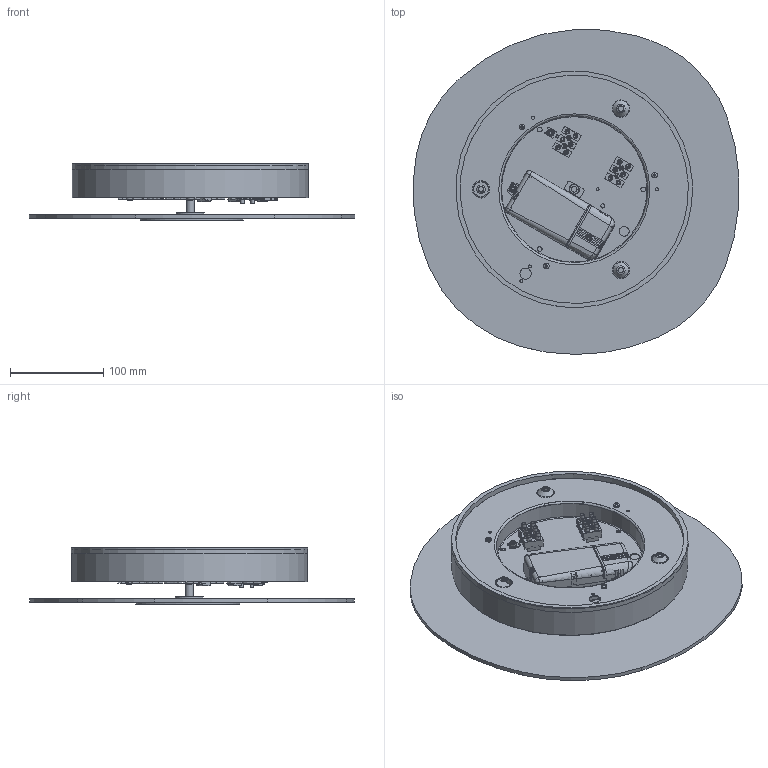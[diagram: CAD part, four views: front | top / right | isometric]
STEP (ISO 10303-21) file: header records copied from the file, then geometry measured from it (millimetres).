
FILE_DESCRIPTION(/* description */ ('1010391 - BETA SMALL P-PL CON SCHEDA Ø160'),/* implementation_level */ '2;1');
FILE_NAME(/* name */ 'R:\Tecnico\_NEW TECNICO CLANN\PROGETTI DI SERIE LEUCOS FINO 2019\BETA\drawings\INVENTOR BETA\3D\BETA SMALL LED II VERSIONE - Connettori Phoenix.stp',/* time_stamp */ '2021-09-09T15:59:38+02:00',/* author */ ('andrea.bortot'),/* organization */ (''),/* preprocessor_version */ 'ST-DEVELOPER v18.1',/* originating_system */ 'Autodesk Inventor 2020',/* authorisation */ '');
FILE_SCHEMA (('AUTOMOTIVE_DESIGN { 1 0 10303 214 3 1 1 }'));
Products named in the file (32): BETA SMALL LED II VERSIONE - Connettori Phoenix; GUARNIZIONE PVC 70 SHORE TRASP.SEZ.U GMP ENGIN - SVIL.784; 00063C014; 00063C010; 00063C003; 00063C004; 00063C015; PANNO NERO Ø88 C-APERTURA SFERA T20; 00063C012; ALIM.EL. DIM LED TCI 125400; MORSETTO 3P O-KORNER OK 433-FV-H S-SERIGRAFIA; 00063C006; BLOCCACAVO STEAB 5922-18 NERO; VITE TCBIC M4X16; FORCELLA DI MESSA A TERRA; SCHEDA LED EA CL168.00; DIST. ESA M3 L25 DD10 E 3050 25 ELEKTROZUBEHO; RONDELLA DENTELLATA ESTERNA M3 UNI8842A; VITE TC M3X6 ZN DIN 7985; VITE TCC M2.5X16 ZINC UNI7687 DIN7985; DADO ESAG. M2,5 UNI5588 DIN934; DADO M6 ZINCATO H4; 00063C018; RONDELLA DENTELLATA ESTERNA M6 ZINCATA; CONNETTORE F 2P PHOENIX 1709457; CONNETTORE M 2P PHOENIX 1709450; RONDELLA DENTELLATA ESTERNA M4; VITE TCBIC M4X8 UNI7687 DIN7985; DADO M4 S3 M.00.14.19 CH7 ELETTROLAMP; CAVO 1AWG18 PVC T105 600V MAT.B UR-CSA RIGIDO; CAVO 1X0,5MM MARRONE LAPP 4180403 CSA-UR 105° 300
V; CAVO 1X0,5MM BIANCO LAPP 4180405 CSA-UR 105° 300V
Assembly tree (65 placements, depth 2):
  BETA SMALL LED II VERSIONE - Connettori Phoenix
    GUARNIZIONE PVC 70 SHORE TRASP.SEZ.U GMP ENGIN - SVIL.784
    00063C014
    00063C010
    00063C003
    00063C004
    00063C015
    PANNO NERO Ø88 C-APERTURA SFERA T20
    00063C012
    ALIM.EL. DIM LED TCI 125400
    MORSETTO 3P O-KORNER OK 433-FV-H S-SERIGRAFIA  x2
    00063C006
    BLOCCACAVO STEAB 5922-18 NERO  x2
    DADO M4 S3 M.00.14.19 CH7 ELETTROLAMP  x5
    VITE TCBIC M4X16  x2
    FORCELLA DI MESSA A TERRA
    RONDELLA DENTELLATA ESTERNA M4  x4
    SCHEDA LED EA CL168.00
    DIST. ESA M3 L25 DD10 E 3050 25 ELEKTROZUBEHO  x3
    VITE TC M3X6 ZN DIN 7985  x6
    RONDELLA DENTELLATA ESTERNA M3 UNI8842A  x6
    VITE TCBIC M4X8 UNI7687 DIN7985  x7
    VITE TCC M2.5X16 ZINC UNI7687 DIN7985  x4
    DADO ESAG. M2,5 UNI5588 DIN934  x4
    DADO M6 ZINCATO H4
    00063C018
    RONDELLA DENTELLATA ESTERNA M6 ZINCATA
    CONNETTORE F 2P PHOENIX 1709457
    CONNETTORE M 2P PHOENIX 1709450
    CAVO 1AWG18 PVC T105 600V MAT.B UR-CSA RIGIDO
    CAVO 1X0,5MM MARRONE LAPP 4180403 CSA-UR 105° 300
V
    CAVO 1X0,5MM BIANCO LAPP 4180405 CSA-UR 105° 300V
Bounding box: 349.53 x 348.55 x 60.5 mm (x, y, z)
Volume: 638208.7 mm3; surface area: 607803.1 mm2
Topology: 72 solids, 72 shells, 6264 faces, 16710 edges, 10776 vertices
Faces by surface type: plane 3104, cylinder 1666, bspline 791, cone 426, torus 166, sphere 111
Full cylindrical faces by diameter (mm): 2 x8, 2.013 x4, 2.275 x4, 2.459 x6, 2.5 x6, 2.75 x6, 3 x20, 3.2 x12, 3.242 x17, 3.5 x2, 3.6 x12, 3.65 x9, 4 x31, 4.3 x8, 4.5 x9, 4.917 x1, 5 x7, 5.5 x4, 6 x2, 6.17 x1, 6.4 x1, 6.5 x1, 6.8 x1, 8.5 x1, 9 x1, 10.5 x2, 12 x1, 16 x1, 20 x1, 30 x1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
Entity records: 185925 total; most frequent: CARTESIAN_POINT 65673, ORIENTED_EDGE 25020, DIRECTION 22580, EDGE_CURVE 12510, VERTEX_POINT 8056, AXIS2_PLACEMENT_3D 7567, LINE 7446, VECTOR 7446
